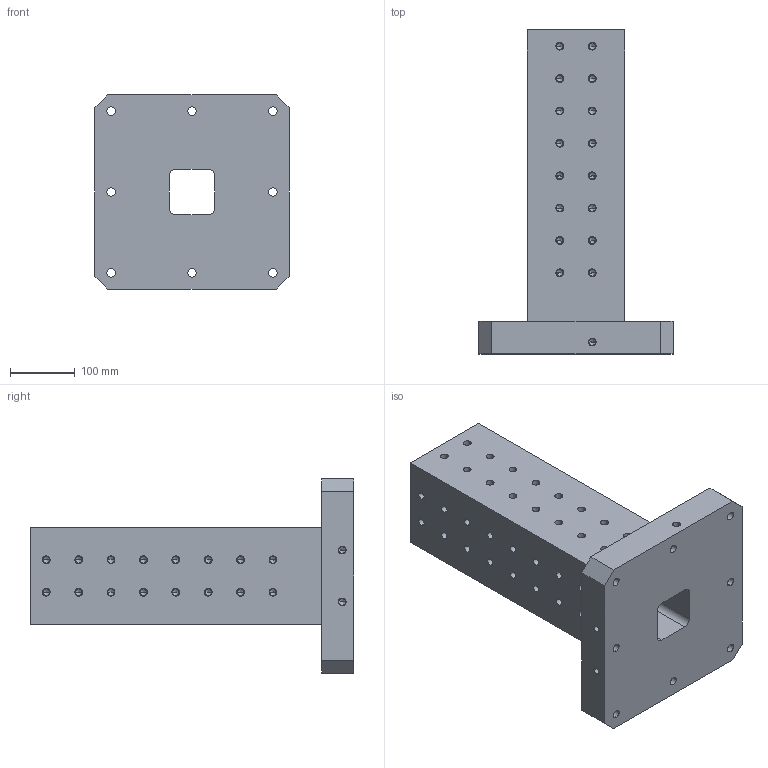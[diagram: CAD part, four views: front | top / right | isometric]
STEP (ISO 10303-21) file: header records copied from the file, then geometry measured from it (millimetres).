
FILE_DESCRIPTION((''),'2;1');
FILE_NAME('FG_WH_TOMB_SQGRDNP001','2026-05-19T12:48:33',('Admin'),(''),'CREO PARAMETRIC BY PTC INC, 2025010','CREO PARAMETRIC BY PTC INC, 2025010','');
FILE_SCHEMA(('CONFIG_CONTROL_DESIGN'));
Length unit declared in the file: millimetre
Products named in the file (1): FG_WH_TOMB_SQGRDNP001
Bounding box: 300 x 500 x 300 mm (x, y, z)
Volume: 11900244.9 mm3; surface area: 784564.7 mm2
Topology: 1 solids, 70 shells, 738 faces, 1782 edges, 1119 vertices
Faces by surface type: cylinder 440, plane 160, cone 138
Entity records: 20974 total; most frequent: DIRECTION 4140, CARTESIAN_POINT 3502, ORIENTED_EDGE 3012, AXIS2_PLACEMENT_3D 1757, EDGE_CURVE 1644, VERTEX_POINT 1119, CIRCLE 1018, EDGE_LOOP 967
